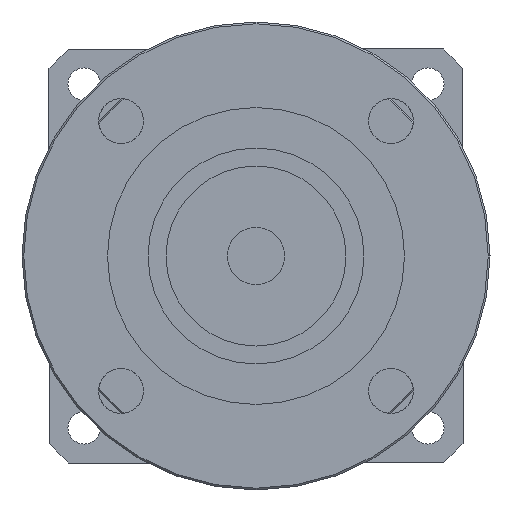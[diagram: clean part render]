
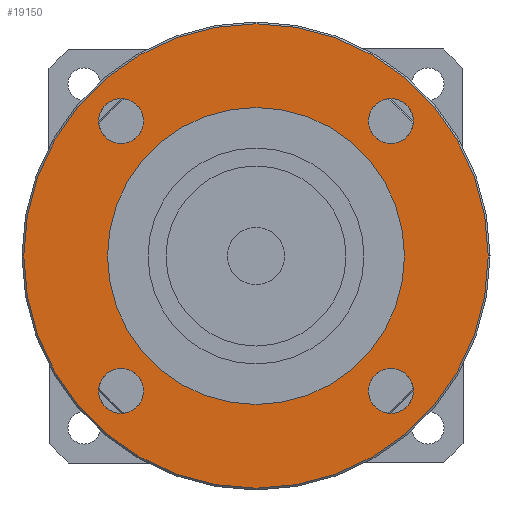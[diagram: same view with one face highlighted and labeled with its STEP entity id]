
A CAD part, left-side view. The second image highlights one B-rep face of the part: STEP entity #19150.
In plain terms, the highlighted planar face has unit normal (-1, 0, 0) as drawn and (0, 0, -1) by its records, which use the part's own axes.
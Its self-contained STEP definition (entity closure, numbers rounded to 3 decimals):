
#17990=CARTESIAN_POINT('',(37.477,31.227,-114.5));
#18000=VERTEX_POINT('',#17990);
#18030=CARTESIAN_POINT('',(37.477,37.477,-114.5));
#18040=DIRECTION('',(0.,0.,-1.));
#18050=DIRECTION('',(0.,-1.,0.));
#18060=AXIS2_PLACEMENT_3D('',#18030,#18040,#18050);
#18070=CIRCLE('',#18060,6.25);
#18080=CARTESIAN_POINT('',(37.477,43.727,-114.5));
#18090=VERTEX_POINT('',#18080);
#18100=EDGE_CURVE('',#18090,#18000,#18070,.T.);
#18300=CARTESIAN_POINT('',(0.,0.,
-114.5));
#18310=DIRECTION('',(0.,0.,-1.));
#18320=DIRECTION('',(0.,-1.,0.));
#18330=AXIS2_PLACEMENT_3D('',#18300,#18310,#18320);
#18340=PLANE('',#18330);
#18350=CARTESIAN_POINT('',(-37.477,37.477,-114.5));
#18360=DIRECTION('',(0.,0.,-1.));
#18370=DIRECTION('',(0.,-1.,0.));
#18380=AXIS2_PLACEMENT_3D('',#18350,#18360,#18370);
#18390=CIRCLE('',#18380,6.25);
#18400=CARTESIAN_POINT('',(-37.477,31.227,-114.5));
#18410=VERTEX_POINT('',#18400);
#18420=CARTESIAN_POINT('',(-37.477,43.727,-114.5));
#18430=VERTEX_POINT('',#18420);
#18440=EDGE_CURVE('',#18410,#18430,#18390,.T.);
#18450=ORIENTED_EDGE('',*,*,#18440,.F.);
#18460=EDGE_CURVE('',#18430,#18410,#18390,.T.);
#18470=ORIENTED_EDGE('',*,*,#18460,.F.);
#18480=EDGE_LOOP('',(#18470,#18450));
#18490=FACE_BOUND('',#18480,.T.);
#18500=EDGE_CURVE('',#18000,#18090,#18070,.T.);
#18510=ORIENTED_EDGE('',*,*,#18500,.F.);
#18520=ORIENTED_EDGE('',*,*,#18100,.F.);
#18530=EDGE_LOOP('',(#18520,#18510));
#18540=FACE_BOUND('',#18530,.T.);
#18550=CARTESIAN_POINT('',(37.477,-37.477,-114.5));
#18560=DIRECTION('',(0.,0.,-1.));
#18570=DIRECTION('',(0.,-1.,0.));
#18580=AXIS2_PLACEMENT_3D('',#18550,#18560,#18570);
#18590=CIRCLE('',#18580,6.25);
#18600=CARTESIAN_POINT('',(37.477,-43.727,-114.5));
#18610=VERTEX_POINT('',#18600);
#18620=CARTESIAN_POINT('',(37.477,-31.227,-114.5));
#18630=VERTEX_POINT('',#18620);
#18640=EDGE_CURVE('',#18610,#18630,#18590,.T.);
#18650=ORIENTED_EDGE('',*,*,#18640,.F.);
#18660=EDGE_CURVE('',#18630,#18610,#18590,.T.);
#18670=ORIENTED_EDGE('',*,*,#18660,.F.);
#18680=EDGE_LOOP('',(#18670,#18650));
#18690=FACE_BOUND('',#18680,.T.);
#18700=CARTESIAN_POINT('',(-37.477,-37.477,-114.5));
#18710=DIRECTION('',(0.,0.,-1.));
#18720=DIRECTION('',(0.,-1.,0.));
#18730=AXIS2_PLACEMENT_3D('',#18700,#18710,#18720);
#18740=CIRCLE('',#18730,6.25);
#18750=CARTESIAN_POINT('',(-37.477,-43.727,-114.5));
#18760=VERTEX_POINT('',#18750);
#18770=CARTESIAN_POINT('',(-37.477,-31.227,-114.5));
#18780=VERTEX_POINT('',#18770);
#18790=EDGE_CURVE('',#18760,#18780,#18740,.T.);
#18800=ORIENTED_EDGE('',*,*,#18790,.F.);
#18810=EDGE_CURVE('',#18780,#18760,#18740,.T.);
#18820=ORIENTED_EDGE('',*,*,#18810,.F.);
#18830=EDGE_LOOP('',(#18820,#18800));
#18840=FACE_BOUND('',#18830,.T.);
#18850=CARTESIAN_POINT('',(0.,0.,
-114.5));
#18860=DIRECTION('',(0.,0.,-1.));
#18870=DIRECTION('',(0.,-1.,0.));
#18880=AXIS2_PLACEMENT_3D('',#18850,#18860,#18870);
#18890=CIRCLE('',#18880,64.5);
#18900=CARTESIAN_POINT('',(0.,-64.5,-114.5));
#18910=VERTEX_POINT('',#18900);
#18920=CARTESIAN_POINT('',(0.,64.5,-114.5));
#18930=VERTEX_POINT('',#18920);
#18940=EDGE_CURVE('',#18910,#18930,#18890,.T.);
#18950=ORIENTED_EDGE('',*,*,#18940,.T.);
#18960=EDGE_CURVE('',#18930,#18910,#18890,.T.);
#18970=ORIENTED_EDGE('',*,*,#18960,.T.);
#18980=EDGE_LOOP('',(#18970,#18950));
#18990=FACE_OUTER_BOUND('',#18980,.T.);
#19000=CARTESIAN_POINT('',(0.,0.,
-114.5));
#19010=DIRECTION('',(0.,0.,1.));
#19020=DIRECTION('',(0.,-1.,0.));
#19030=AXIS2_PLACEMENT_3D('',#19000,#19010,#19020);
#19040=CIRCLE('',#19030,41.25);
#19050=CARTESIAN_POINT('',(0.,-41.25,-114.5));
#19060=VERTEX_POINT('',#19050);
#19070=CARTESIAN_POINT('',(0.,41.25,-114.5));
#19080=VERTEX_POINT('',#19070);
#19090=EDGE_CURVE('',#19060,#19080,#19040,.T.);
#19100=ORIENTED_EDGE('',*,*,#19090,.T.);
#19110=EDGE_CURVE('',#19080,#19060,#19040,.T.);
#19120=ORIENTED_EDGE('',*,*,#19110,.T.);
#19130=EDGE_LOOP('',(#19120,#19100));
#19140=FACE_BOUND('',#19130,.T.);
#19150=ADVANCED_FACE('',(#18490,#18540,#18690,#18840,#18990,#19140),
#18340,.T.);
